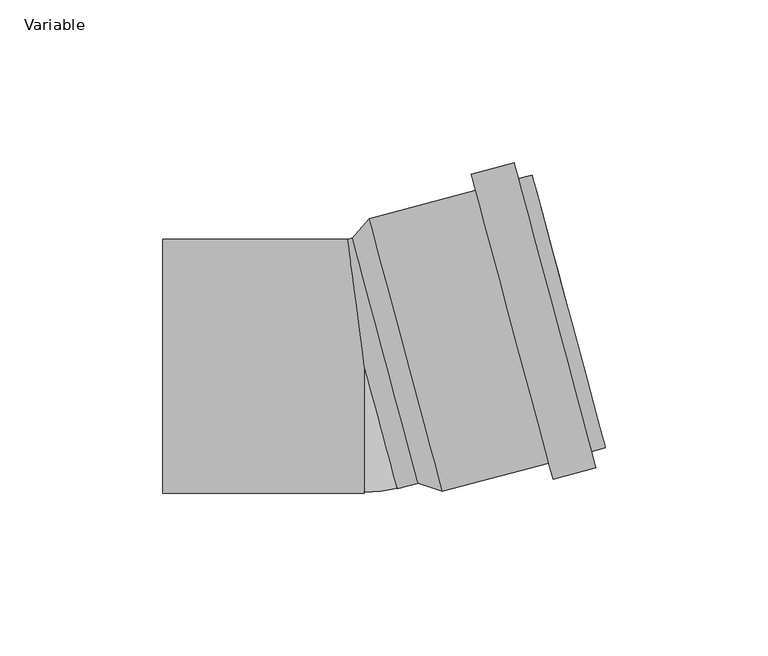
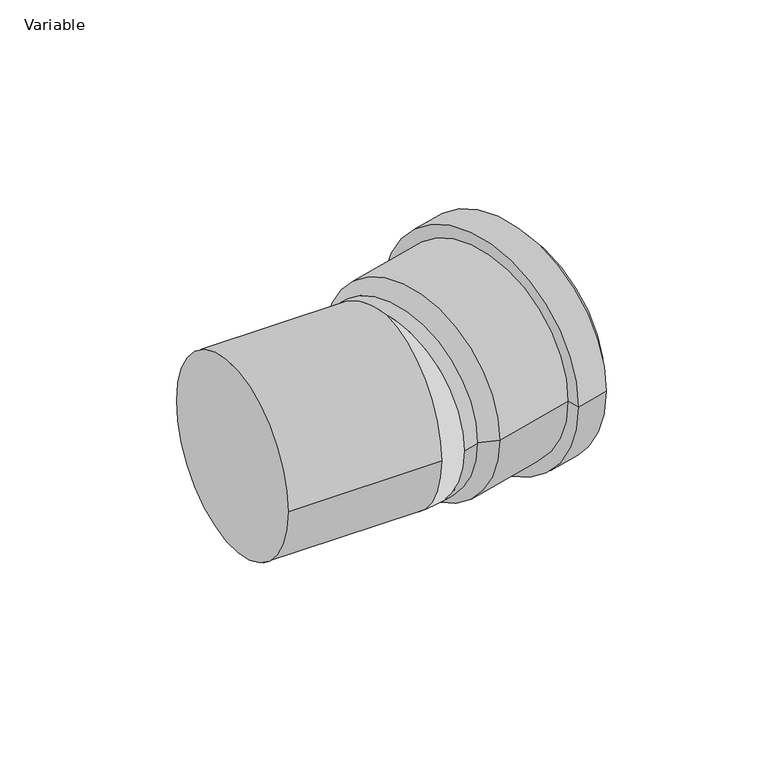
"""IFC4 building model written with IfcOpenShell, lengths in millimetres: pipe fitting geometry, AliaxisFR_Friaphon_ElbowMF_FR : Variable."""

from ifc_helpers import new_model, si_unit, point, frame, origin, place, context, project, spatial, polyline, circle_curve, ellipse_curve, trimmed, source, transform, mapped, element, save
from ifc_brep_helpers import plane_surface, cylinder_surface, revolved_surface, advanced_brep


def variable_f936b7be(model_context):
    return source(origin(), model_context, "Body", "AdvancedBrep", [
        advanced_brep(
        [(74.0179253, -25.0979429, 0.0), (51.5524322, 58.7444188, 0.0), (52.6912359, 54.4943452, 0.0), (72.8791215, -20.8478693, 0.0), (57.9512375, -34.6829075, 0.0), (32.8457901, 59.0118977, 0.0), (45.9823814, 62.5318367, 0.0), (71.0878288, -31.1629684, 0.0), (56.6312604, -29.7566857, 0.0), (34.1657673, 54.085676, 0.0), (23.9829675, -38.5047695, 0.0), (1.5174743, 45.3375923, 0.0), (-3.7188323, 39.3793129, 0.0), (16.4690532, -35.9629015, 0.0), (69.7678516, -26.2367467, 0.0), (47.3023585, 57.605615, 0.0)],
        [
            (0, 1, circle_curve(frame((62.7851787, 16.8232379, 0.0), z_axis=(0.9659258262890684, 0.25881904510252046, 0.0), x_axis=(-0.25881904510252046, 0.9659258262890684, 0.0)), 43.4)),
            (1, 2),
            (2, 3, circle_curve(frame((62.7851787, 16.8232379, 0.0), z_axis=(-0.9659258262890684, -0.25881904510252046, 0.0), x_axis=(-0.25881904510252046, 0.9659258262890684, 0.0)), 39.0)),
            (3, 0),
            (1, 0, circle_curve(frame((62.7851787, 16.8232379, 0.0), z_axis=(0.9659258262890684, 0.25881904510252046, 0.0), x_axis=(-0.25881904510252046, 0.9659258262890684, 0.0)), 43.4)),
            (3, 2, circle_curve(frame((62.7851787, 16.8232379, 0.0), z_axis=(-0.9659258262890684, -0.25881904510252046, 0.0), x_axis=(-0.25881904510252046, 0.9659258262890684, 0.0)), 39.0)),
            (4, 5, circle_curve(frame((45.3985138, 12.1644951, 0.0), z_axis=(0.9659258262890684, 0.25881904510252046, 0.0), x_axis=(-0.25881904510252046, 0.9659258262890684, 0.0)), 48.5)),
            (5, 6),
            (6, 7, circle_curve(frame((58.5351051, 15.6844341, 0.0), z_axis=(-0.9659258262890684, -0.25881904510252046, 0.0), x_axis=(-0.25881904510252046, 0.9659258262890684, 0.0)), 48.5)),
            (7, 4),
            (5, 4, circle_curve(frame((45.3985138, 12.1644951, 0.0), z_axis=(0.9659258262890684, 0.25881904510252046, 0.0), x_axis=(-0.25881904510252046, 0.9659258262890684, 0.0)), 48.5)),
            (7, 6, circle_curve(frame((58.5351051, 15.6844341, 0.0), z_axis=(-0.9659258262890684, -0.25881904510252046, 0.0), x_axis=(-0.25881904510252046, 0.9659258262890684, 0.0)), 48.5)),
            (8, 9, circle_curve(frame((45.3985138, 12.1644951, 0.0), z_axis=(0.9659258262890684, 0.25881904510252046, 0.0), x_axis=(-0.25881904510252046, 0.9659258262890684, 0.0)), 43.4)),
            (9, 5),
            (4, 8),
            (9, 8, circle_curve(frame((45.3985138, 12.1644951, 0.0), z_axis=(0.9659258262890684, 0.25881904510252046, 0.0), x_axis=(-0.25881904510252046, 0.9659258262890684, 0.0)), 43.4)),
            (10, 11, circle_curve(frame((12.7502209, 3.4164114, 0.0), z_axis=(0.9659258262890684, 0.25881904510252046, 0.0), x_axis=(-0.25881904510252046, 0.9659258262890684, 0.0)), 43.4)),
            (11, 9),
            (8, 10),
            (11, 10, circle_curve(frame((12.7502209, 3.4164114, 0.0), z_axis=(0.9659258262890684, 0.25881904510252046, 0.0), x_axis=(-0.25881904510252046, 0.9659258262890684, 0.0)), 43.4)),
            (2, 12),
            (12, 13, circle_curve(frame((6.3751105, 1.7082057, 0.0), z_axis=(-0.9659258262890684, -0.25881904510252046, 0.0), x_axis=(-0.25881904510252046, 0.9659258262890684, 0.0)), 39.0)),
            (13, 3),
            (13, 12, circle_curve(frame((6.3751105, 1.7082057, 0.0), z_axis=(-0.9659258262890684, -0.25881904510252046, 0.0), x_axis=(-0.25881904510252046, 0.9659258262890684, 0.0)), 39.0)),
            (12, 11),
            (10, 13),
            (14, 15, circle_curve(frame((58.5351051, 15.6844341, 0.0), z_axis=(0.9659258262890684, 0.25881904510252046, 0.0), x_axis=(-0.25881904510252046, 0.9659258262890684, 0.0)), 43.4)),
            (15, 1),
            (0, 14),
            (15, 14, circle_curve(frame((58.5351051, 15.6844341, 0.0), z_axis=(0.9659258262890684, 0.25881904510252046, 0.0), x_axis=(-0.25881904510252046, 0.9659258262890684, 0.0)), 43.4)),
            (6, 15),
            (14, 7),
        ],
        [
            plane_surface(frame((62.7851787, 16.8232379, 0.0), z_axis=(0.9659258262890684, 0.25881904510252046, 0.0), x_axis=(-0.25881904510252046, 0.9659258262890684, 0.0))),
            cylinder_surface(frame((6.3751105, 1.7082057, 0.0), z_axis=(-0.9659258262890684, -0.25881904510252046, 0.0), x_axis=(-0.25881904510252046, 0.9659258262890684, 0.0)), 48.5),
            plane_surface(frame((45.3985138, 12.1644951, 0.0), z_axis=(-0.9659258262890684, -0.25881904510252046, 0.0), x_axis=(-0.25881904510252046, 0.9659258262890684, 0.0))),
            cylinder_surface(frame((6.3751105, 1.7082057, 0.0), z_axis=(-0.9659258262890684, -0.25881904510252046, 0.0), x_axis=(-0.25881904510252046, 0.9659258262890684, 0.0)), 43.4),
            revolved_surface(polyline([(-3.7188323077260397, 39.37931291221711, 0.0), (52.69123598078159, 54.49434515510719, 0.0)]), (6.3751105, 1.7082057, 0.0), (-0.9659258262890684, -0.25881904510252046, 0.0)),
            revolved_surface(polyline([(1.5174743, 45.3375923, 0.0), (-3.7188323, 39.3793129, 0.0)]), (6.3751105, 1.7082057, 0.0), (-0.9659258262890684, -0.25881904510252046, 0.0)),
            plane_surface(frame((58.5351051, 15.6844341, 0.0), z_axis=(0.9659258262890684, 0.25881904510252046, 0.0), x_axis=(-0.25881904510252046, 0.9659258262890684, 0.0))),
        ],
        [
            (0, [[1, 2, 3, 4]]),
            (0, [[5, -4, 6, -2]]),
            (1, [[7, 8, 9, 10]]),
            (1, [[11, -10, 12, -8]]),
            (2, [[13, 14, -7, 15]]),
            (2, [[16, -15, -11, -14]]),
            (3, [[17, 18, -13, 19]]),
            (3, [[20, -19, -16, -18]]),
            (4, [[-3, 21, 22, 23]]),
            (4, [[-6, -23, 24, -21]]),
            (5, [[-22, 25, -17, 26]]),
            (5, [[-24, -26, -20, -25]]),
            (3, [[27, 28, -1, 29]]),
            (3, [[30, -29, -5, -28]]),
            (6, [[-9, 31, -27, 32]]),
            (6, [[-12, -32, -30, -31]]),
        ],
    ),
        advanced_brep(
        [(0.5312413, 40.5181167, 0.0), (10.6251841, 2.8470095, 39.0), (20.7191268, -34.8240977, 0.0), (10.6251841, 2.8470095, -39.0), (10.0939428, -37.6711072, 0.0), (-5.1344474, 39.0, 0.0), (0.0, 0.0, 39.0), (0.0, 0.0, -39.0), (-62.0, -39.0, 0.0), (-62.0, 39.0, 0.0), (0.0, -39.0, 0.0)],
        [
            (0, 1, circle_curve(frame((10.6251841, 2.8470095, 0.0), z_axis=(0.9659258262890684, 0.2588190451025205, 0.0), x_axis=(-0.2588190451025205, 0.9659258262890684, 0.0)), 39.0)),
            (1, 2, circle_curve(frame((10.6251841, 2.8470095, 0.0), z_axis=(0.9659258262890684, 0.2588190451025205, 0.0), x_axis=(-0.2588190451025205, 0.9659258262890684, 0.0)), 39.0)),
            (2, 3, circle_curve(frame((10.6251841, 2.8470095, 0.0), z_axis=(0.9659258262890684, 0.2588190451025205, 0.0), x_axis=(-0.2588190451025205, 0.9659258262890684, 0.0)), 39.0)),
            (3, 0, circle_curve(frame((10.6251841, 2.8470095, 0.0), z_axis=(0.9659258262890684, 0.2588190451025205, 0.0), x_axis=(-0.2588190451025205, 0.9659258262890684, 0.0)), 39.0)),
            (4, 2),
            (0, 5),
            (5, 6, ellipse_curve(frame((0.0, 0.0, 0.0), z_axis=(0.9914448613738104, 0.13052619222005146, 0.0), x_axis=(0.13052619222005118, -0.9914448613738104, 0.0)), 39.3365295, 39.0)),
            (6, 4, circle_curve(frame((0.0, 0.0, 0.0), z_axis=(0.9659258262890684, 0.2588190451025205, 0.0), x_axis=(-0.2588190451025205, 0.9659258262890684, 0.0)), 39.0)),
            (4, 7, circle_curve(frame((0.0, 0.0, 0.0), z_axis=(0.9659258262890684, 0.2588190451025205, 0.0), x_axis=(-0.2588190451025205, 0.9659258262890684, 0.0)), 39.0)),
            (7, 5, ellipse_curve(frame((0.0, 0.0, 0.0), z_axis=(0.9914448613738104, 0.13052619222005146, 0.0), x_axis=(0.13052619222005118, -0.9914448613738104, 0.0)), 39.3365295, 39.0)),
            (8, 9, circle_curve(frame((-62.0, 0.0, 0.0), z_axis=(-1.0, 0.0, 0.0), x_axis=(0.0, 1.0, 0.0)), 39.0)),
            (9, 8, circle_curve(frame((-62.0, 0.0, 0.0), z_axis=(-1.0, 0.0, 0.0), x_axis=(0.0, 1.0, 0.0)), 39.0)),
            (8, 10),
            (10, 6, circle_curve(frame((0.0, 0.0, 0.0), z_axis=(-1.0, 0.0, 0.0), x_axis=(0.0, 1.0, 0.0)), 39.0)),
            (5, 9),
            (7, 10, circle_curve(frame((0.0, 0.0, 0.0), z_axis=(-1.0, 0.0, 0.0), x_axis=(0.0, 1.0, 0.0)), 39.0)),
        ],
        [
            plane_surface(frame((10.6251841, 2.8470095, 0.0), z_axis=(0.9659258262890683, 0.2588190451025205, 0.0), x_axis=(0.0, 0.0, 1.0))),
            cylinder_surface(frame((0.0, 0.0, 0.0), z_axis=(-0.9659258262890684, -0.2588190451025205, 0.0), x_axis=(-0.2588190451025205, 0.9659258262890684, 0.0)), 39.0),
            plane_surface(frame((-62.0, 0.0, 0.0), z_axis=(-1.0, 0.0, 0.0), x_axis=(0.0, 0.0, 1.0))),
            cylinder_surface(frame((-62.0, 0.0, 0.0), z_axis=(-1.0, 0.0, 0.0), x_axis=(0.0, 1.0, 0.0)), 39.0),
            revolved_surface(trimmed(ellipse_curve(frame((0.0, 0.0, 0.0), z_axis=(0.9659258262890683, 0.2588190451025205, 0.0), x_axis=(-0.2588190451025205, 0.9659258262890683, 0.0)), 39.0, 39.0), [point((0.0, 0.0, 39.0))], [point((0.0, 0.0, -39.0))], True, "CARTESIAN"), (0.0, 0.0, 39.0), (0.0, 0.0, -1.0)),
        ],
        [
            (0, [[1, 2, 3, 4]]),
            (1, [[5, -2, -1, 6, 7, 8]]),
            (1, [[-5, 9, 10, -6, -4, -3]]),
            (2, [[11, 12]]),
            (3, [[-11, 13, 14, -7, 15]]),
            (3, [[-12, -15, -10, 16, -13]]),
            (4, [[-14, -16, -9, -8]]),
        ],
    ),
    ])


if __name__ == "__main__":
    model = new_model("IFC4")
    model_context = context("Model", 3, world=origin())
    ifc_project = project(units=[si_unit("LENGTHUNIT", "METRE", prefix="MILLI")], contexts=[model_context])
    site = spatial("IfcSite", under=ifc_project)
    building = spatial("IfcBuilding", under=site)
    placement = place(None, origin())
    variable_shape = variable_f936b7be(model_context)
    element("IfcPipeFitting", 1, ObjectType="AliaxisFR_Friaphon_ElbowMF_FR : Variable", at=placement, inside=building, context=model_context, shape_type="MappedRepresentation", body=[
        mapped(variable_shape, transform((0.0, 0.0, 0.0), x_axis=(1.0, 0.0, 0.0), y_axis=(0.0, 1.0, 0.0), z_axis=(0.0, 0.0, 1.0))),
    ])
    save(model, "model.ifc")
